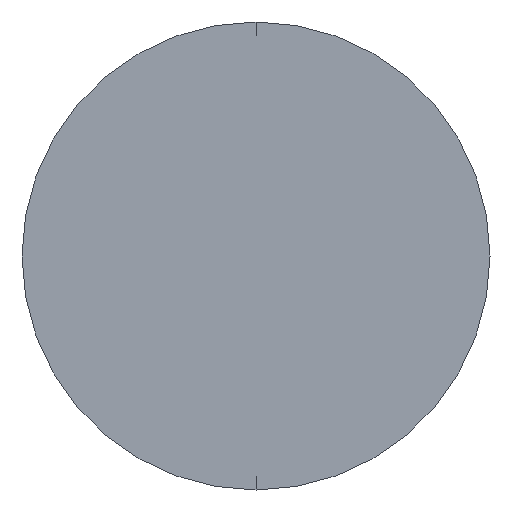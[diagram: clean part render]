
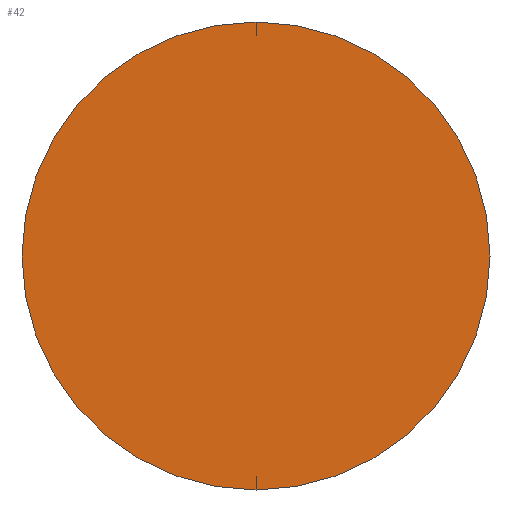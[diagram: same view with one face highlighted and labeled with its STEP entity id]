
A CAD part, left-side view. The second image highlights one B-rep face of the part: STEP entity #42.
In plain terms, the highlighted planar face has unit normal (-1, 0, 0).
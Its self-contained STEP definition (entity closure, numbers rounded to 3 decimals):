
#17 = CIRCLE ( 'NONE', #95, 1.4 ) ;
#27 = EDGE_CURVE ( 'NONE', #62, #68, #17, .T. ) ;
#28 = DIRECTION ( 'NONE',  ( -1., 0., 0. ) ) ;
#33 = PLANE ( 'NONE',  #238 ) ;
#42 = ADVANCED_FACE ( 'NONE', ( #271 ), #33, .F. ) ;
#62 = VERTEX_POINT ( 'NONE', #214 ) ;
#68 = VERTEX_POINT ( 'NONE', #167 ) ;
#95 = AXIS2_PLACEMENT_3D ( 'NONE', #253, #127, #177 ) ;
#127 = DIRECTION ( 'NONE',  ( -1., 0., 0. ) ) ;
#144 = CARTESIAN_POINT ( 'NONE',  ( 0., 0., 0. ) ) ;
#152 = EDGE_CURVE ( 'NONE', #68, #62, #262, .T. ) ;
#162 = DIRECTION ( 'NONE',  ( 0., 0., 1. ) ) ;
#167 = CARTESIAN_POINT ( 'NONE',  ( 0., 0., -1.4 ) ) ;
#177 = DIRECTION ( 'NONE',  ( 0., 0., 1. ) ) ;
#184 = CARTESIAN_POINT ( 'NONE',  ( 0., 0., 0. ) ) ;
#208 = DIRECTION ( 'NONE',  ( 0., 0., -1. ) ) ;
#214 = CARTESIAN_POINT ( 'NONE',  ( 0., 0., 1.4 ) ) ;
#218 = EDGE_LOOP ( 'NONE', ( #260, #287 ) ) ;
#237 = AXIS2_PLACEMENT_3D ( 'NONE', #184, #28, #162 ) ;
#238 = AXIS2_PLACEMENT_3D ( 'NONE', #144, #283, #208 ) ;
#253 = CARTESIAN_POINT ( 'NONE',  ( 0., 0., 0. ) ) ;
#260 = ORIENTED_EDGE ( 'NONE', *, *, #27, .T. ) ;
#262 = CIRCLE ( 'NONE', #237, 1.4 ) ;
#271 = FACE_OUTER_BOUND ( 'NONE', #218, .T. ) ;
#283 = DIRECTION ( 'NONE',  ( 1., 0., 0. ) ) ;
#287 = ORIENTED_EDGE ( 'NONE', *, *, #152, .T. ) ;
